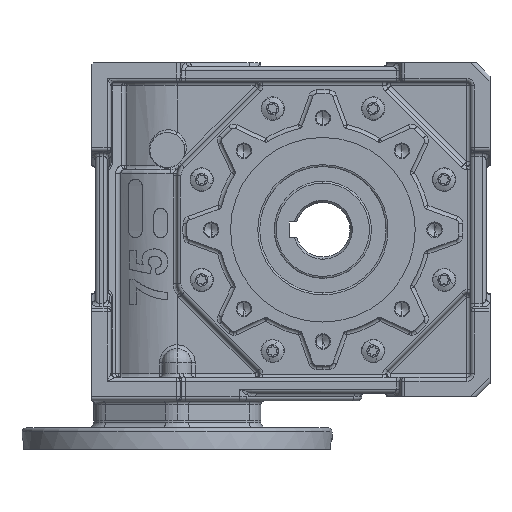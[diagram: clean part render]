
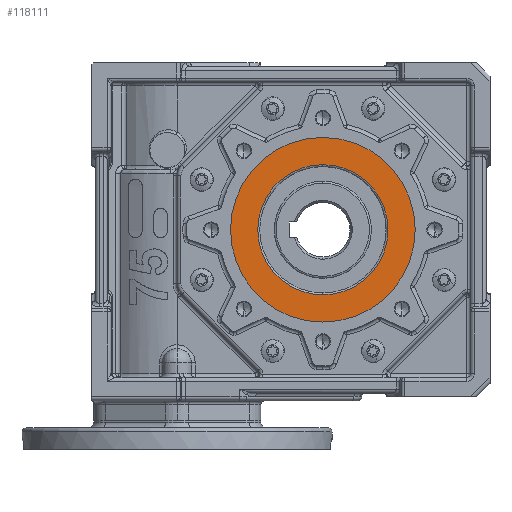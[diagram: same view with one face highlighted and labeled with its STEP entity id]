
A CAD part, left-side view. The second image highlights one B-rep face of the part: STEP entity #118111.
In plain terms, the highlighted planar face has unit normal (-1, 0, 0).
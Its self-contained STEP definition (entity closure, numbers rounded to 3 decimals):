
#176 = PLANE ( 'NONE',  #185 ) ;
#182 = DIRECTION ( 'NONE',  ( 0., 0., -1. ) ) ;
#183 = DIRECTION ( 'NONE',  ( -1., 0., 0. ) ) ;
#184 = CARTESIAN_POINT ( 'NONE',  ( -60., 0., 0. ) ) ;
#185 = AXIS2_PLACEMENT_3D ( 'NONE', #184, #183, #182 ) ;
#268 = DIRECTION ( 'NONE',  ( 0., 0., -1. ) ) ;
#269 = DIRECTION ( 'NONE',  ( 1., 0., 0. ) ) ;
#270 = CARTESIAN_POINT ( 'NONE',  ( -60., 0., 0. ) ) ;
#271 = AXIS2_PLACEMENT_3D ( 'NONE', #270, #269, #268 ) ;
#272 = CIRCLE ( 'NONE', #271, 47.5 ) ;
#320 = DIRECTION ( 'NONE',  ( 0., 0., 1. ) ) ;
#321 = DIRECTION ( 'NONE',  ( -1., 0., 0. ) ) ;
#322 = CARTESIAN_POINT ( 'NONE',  ( -60., 0., 0. ) ) ;
#323 = AXIS2_PLACEMENT_3D ( 'NONE', #322, #321, #320 ) ;
#324 = CIRCLE ( 'NONE', #323, 33.5 ) ;
#439 = FACE_BOUND ( 'NONE', #118047, .T. ) ;
#440 = FACE_OUTER_BOUND ( 'NONE', #118112, .T. ) ;
#115132 = VERTEX_POINT ( 'NONE', #162435 ) ;
#115148 = VERTEX_POINT ( 'NONE', #162493 ) ;
#115153 = EDGE_CURVE ( 'NONE', #115148, #115155, #162482, .T. ) ;
#115155 = VERTEX_POINT ( 'NONE', #162477 ) ;
#115245 = EDGE_CURVE ( 'NONE', #115132, #115248, #162660, .T. ) ;
#115248 = VERTEX_POINT ( 'NONE', #162714 ) ;
#118043 = ORIENTED_EDGE ( 'NONE', *, *, #118045, .F. ) ;
#118045 = EDGE_CURVE ( 'NONE', #115248, #115132, #272, .T. ) ;
#118047 = EDGE_LOOP ( 'NONE', ( #118051, #118056 ) ) ;
#118051 = ORIENTED_EDGE ( 'NONE', *, *, #118053, .F. ) ;
#118053 = EDGE_CURVE ( 'NONE', #115155, #115148, #324, .T. ) ;
#118056 = ORIENTED_EDGE ( 'NONE', *, *, #115153, .F. ) ;
#118111 = ADVANCED_FACE ( 'NONE', ( #440, #439 ), #176, .T. ) ;
#118112 = EDGE_LOOP ( 'NONE', ( #118117, #118043 ) ) ;
#118117 = ORIENTED_EDGE ( 'NONE', *, *, #115245, .F. ) ;
#162417 = DIRECTION ( 'NONE',  ( 0., 0., -1. ) ) ;
#162435 = CARTESIAN_POINT ( 'NONE',  ( -60., 0., -47.5 ) ) ;
#162477 = CARTESIAN_POINT ( 'NONE',  ( -60., 0., 33.5 ) ) ;
#162478 = DIRECTION ( 'NONE',  ( 0., 0., 1. ) ) ;
#162479 = DIRECTION ( 'NONE',  ( -1., 0., 0. ) ) ;
#162480 = CARTESIAN_POINT ( 'NONE',  ( -60., 0., 0. ) ) ;
#162481 = AXIS2_PLACEMENT_3D ( 'NONE', #162480, #162479, #162478 ) ;
#162482 = CIRCLE ( 'NONE', #162481, 33.5 ) ;
#162493 = CARTESIAN_POINT ( 'NONE',  ( -60., 0., -33.5 ) ) ;
#162657 = DIRECTION ( 'NONE',  ( 1., 0., 0. ) ) ;
#162658 = CARTESIAN_POINT ( 'NONE',  ( -60., 0., 0. ) ) ;
#162659 = AXIS2_PLACEMENT_3D ( 'NONE', #162658, #162657, #162417 ) ;
#162660 = CIRCLE ( 'NONE', #162659, 47.5 ) ;
#162714 = CARTESIAN_POINT ( 'NONE',  ( -60., 0., 47.5 ) ) ;
